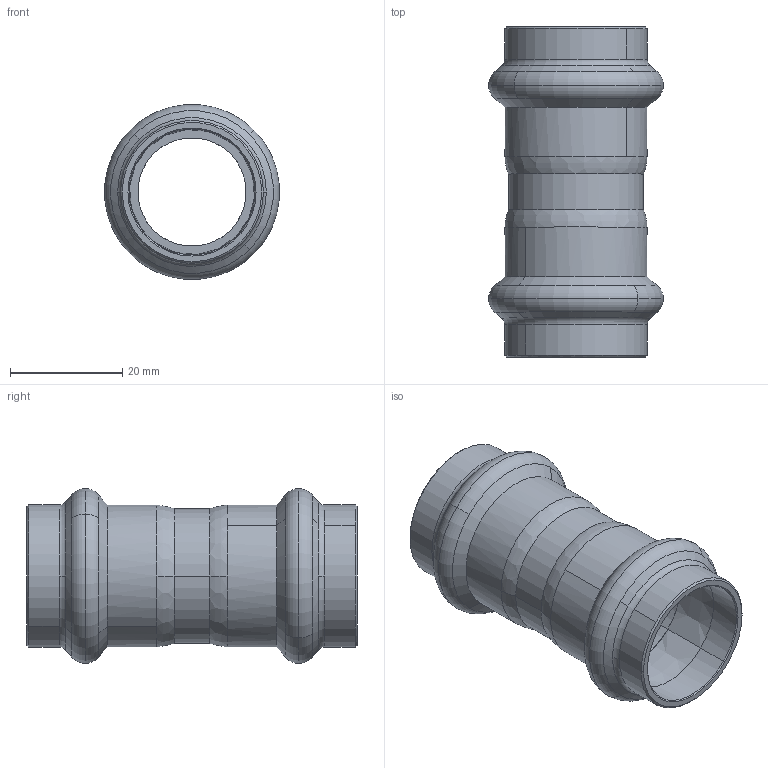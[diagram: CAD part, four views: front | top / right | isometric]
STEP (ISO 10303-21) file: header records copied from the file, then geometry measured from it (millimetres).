
FILE_DESCRIPTION(('CoCreate Modeling STEP Export'),'2;1');
FILE_NAME('8270VW22.stp','2013-01-29T11:57:12',(''),(''),'CoCreate Modeling STEP processor for AP214 (Solid Model)','CoCreate Modeling 17.00A 17-Jun-2010 (C) Parametric Technology GmbH','');
FILE_SCHEMA(('AUTOMOTIVE_DESIGN { 1 0 10303 214 1 1 1 1 }'));
Length unit declared in the file: millimetre
Products named in the file (2): 8270VW22
Assembly tree (1 placements, depth 2):
  8270VW22
    8270VW22
Bounding box: 31.08 x 58.81 x 31.08 mm (x, y, z)
Volume: 9394.2 mm3; surface area: 9905.7 mm2
Topology: 1 solids, 1 shells, 78 faces, 212 edges, 140 vertices
Faces by surface type: torus 28, cylinder 24, cone 20, plane 6
Entity records: 1941 total; most frequent: ORIENTED_EDGE 424, CARTESIAN_POINT 296, DIRECTION 268, EDGE_CURVE 212, VERTEX_POINT 140, AXIS2_PLACEMENT_3D 112, EDGE_LOOP 84, FACE_OUTER_BOUND 78
